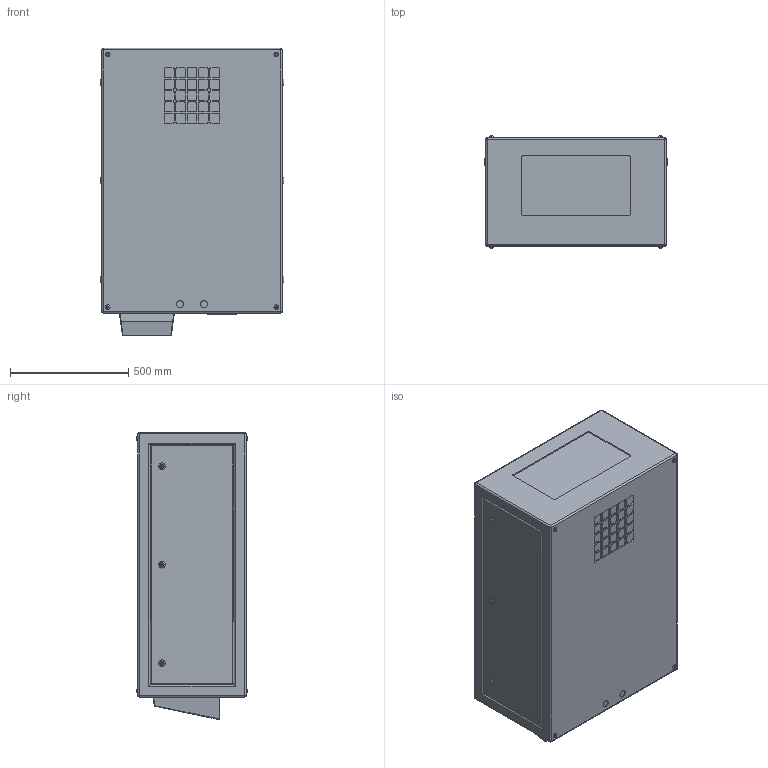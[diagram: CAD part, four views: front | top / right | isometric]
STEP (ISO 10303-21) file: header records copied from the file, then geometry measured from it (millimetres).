
FILE_DESCRIPTION (( 'STEP AP214' ), '1' );
FILE_NAME ('Cyclone 55.202.L R10.STEP', '2022-09-08T18:58:09', ( '' ), ( '' ), 'SwSTEP 2.0', 'SolidWorks 2020', '' );
FILE_SCHEMA (( 'AUTOMOTIVE_DESIGN' ));
Length unit declared in the file: inch
Products named in the file (1): Cyclone 55.202.L R10
Bounding box: 774.7 x 471.8 x 1212.85 mm (x, y, z)
Volume: 168815097.2 mm3; surface area: 6253288.7 mm2
Topology: 1 solids, 8 shells, 591 faces, 1416 edges, 912 vertices
Faces by surface type: plane 295, cylinder 248, torus 40, sphere 8
Entity records: 21234 total; most frequent: CARTESIAN_POINT 3344, DIRECTION 3040, ORIENTED_EDGE 2816, EDGE_CURVE 1408, AXIS2_PLACEMENT_3D 1120, VERTEX_POINT 912, LINE 800, VECTOR 800
